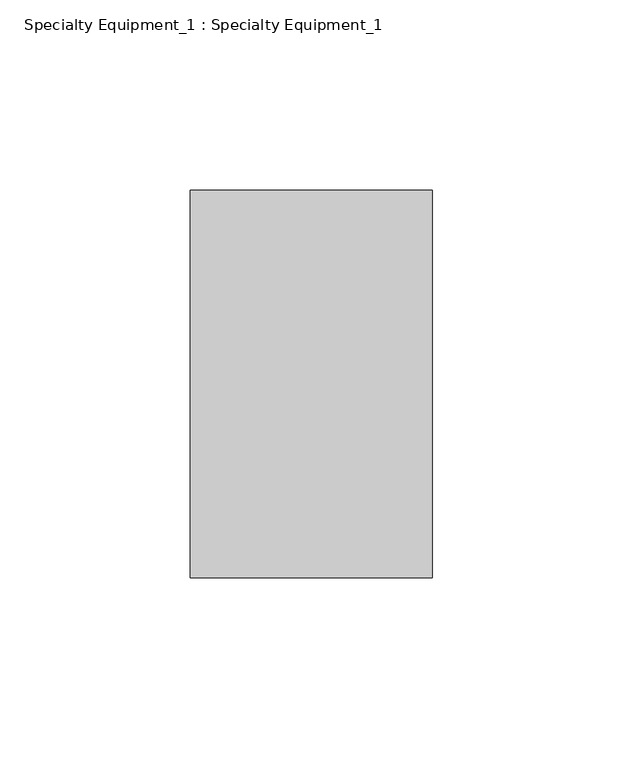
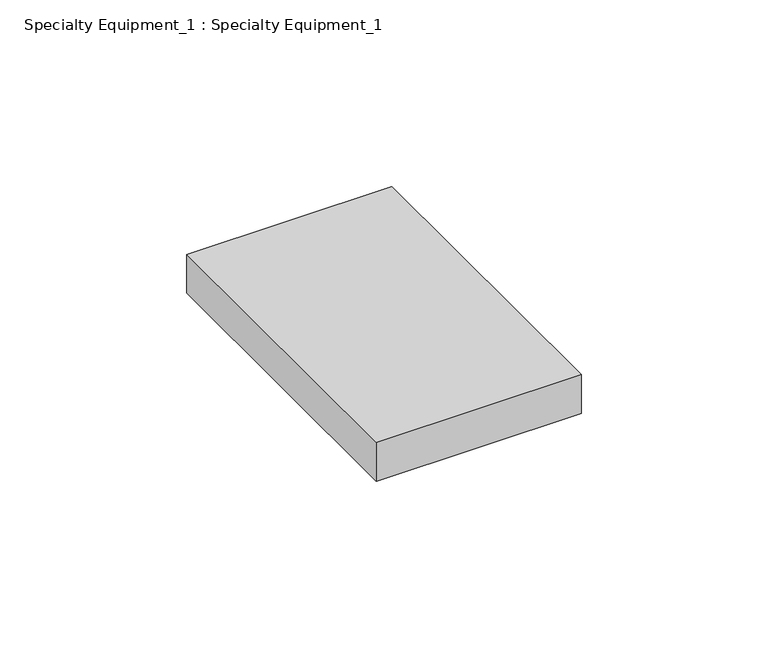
"""IFC4 building model written with IfcOpenShell, lengths in millimetres: proxy geometry, Specialty Equipment_1 : Specialty Equipment_1."""

from ifc_helpers import new_model, si_unit, origin, origin_with_axes, place, context, project, spatial, polyline, outline, extrude, source, transform, mapped, element, save


def specialty_equipment_1_specialty_equipment_1_f51d1b89(model_context):
    return source(origin(), model_context, "Body", "SweptSolid", [
        extrude(outline(polyline([(31.75, 0.0), (31.75, -101.6), (-31.75, -101.6), (-31.75, 0.0), (31.75, 0.0)])), origin_with_axes(), (0.0, 0.0, 1.0), 12.7),
    ])


if __name__ == "__main__":
    model = new_model("IFC4")
    model_context = context("Model", 3, world=origin())
    ifc_project = project(units=[si_unit("LENGTHUNIT", "METRE", prefix="MILLI")], contexts=[model_context])
    site = spatial("IfcSite", under=ifc_project)
    building = spatial("IfcBuilding", under=site)
    placement = place(None, origin())
    specialty_equipment_1_specialty_equipment_1_shape = specialty_equipment_1_specialty_equipment_1_f51d1b89(model_context)
    element("IfcBuildingElementProxy", 1, Name="Specialty Equipment_1 : Specialty Equipment_1", ObjectType="Specialty Equipment_1 : Specialty Equipment_1", at=placement, inside=building, context=model_context, shape_type="MappedRepresentation", body=[
        mapped(specialty_equipment_1_specialty_equipment_1_shape, transform((0.0, 0.0, 0.0), x_axis=(1.0, 0.0, 0.0), y_axis=(0.0, 1.0, 0.0), z_axis=(0.0, 0.0, 1.0))),
    ])
    save(model, "model.ifc")
